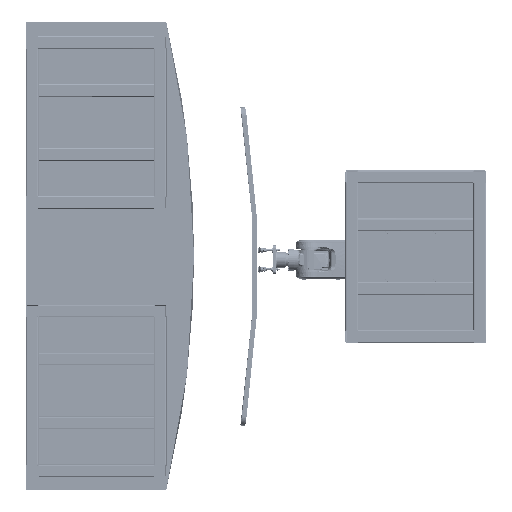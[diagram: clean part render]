
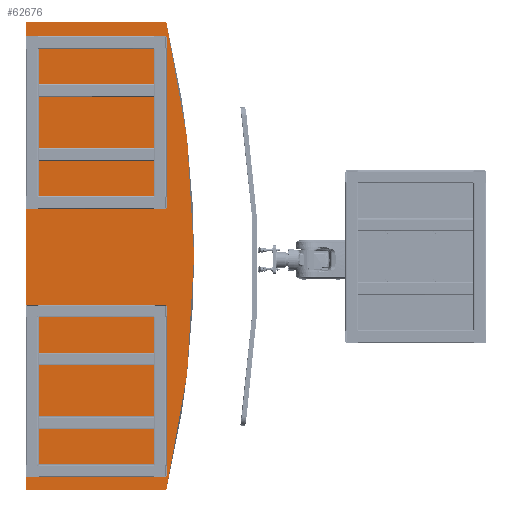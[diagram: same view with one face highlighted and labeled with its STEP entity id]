
A CAD part, front view. The second image highlights one B-rep face of the part: STEP entity #62676.
In plain terms, the highlighted planar face has unit normal (0, -1, 0).
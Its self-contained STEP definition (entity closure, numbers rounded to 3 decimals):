
#9040=LINE('',#193489,#13260);
#9041=LINE('',#193491,#13261);
#9042=LINE('',#193494,#13262);
#13260=VECTOR('',#84897,10.);
#13261=VECTOR('',#84898,10.);
#13262=VECTOR('',#84901,10.);
#17341=FACE_OUTER_BOUND('',#21039,.T.);
#21039=EDGE_LOOP('',(#56480,#56481,#56482,#56483));
#24033=CIRCLE('',#69503,3126.222);
#29521=VERTEX_POINT('',#193487);
#29522=VERTEX_POINT('',#193488);
#29523=VERTEX_POINT('',#193490);
#29524=VERTEX_POINT('',#193492);
#38582=EDGE_CURVE('',#29521,#29522,#9040,.T.);
#38583=EDGE_CURVE('',#29522,#29523,#9041,.T.);
#38584=EDGE_CURVE('',#29523,#29524,#24033,.T.);
#38585=EDGE_CURVE('',#29524,#29521,#9042,.T.);
#56480=ORIENTED_EDGE('',*,*,#38582,.T.);
#56481=ORIENTED_EDGE('',*,*,#38583,.T.);
#56482=ORIENTED_EDGE('',*,*,#38584,.T.);
#56483=ORIENTED_EDGE('',*,*,#38585,.T.);
#59265=PLANE('',#69502);
#62676=ADVANCED_FACE('',(#17341),#59265,.T.);
#69502=AXIS2_PLACEMENT_3D('',#193486,#84895,#84896);
#69503=AXIS2_PLACEMENT_3D('',#193493,#84899,#84900);
#84895=DIRECTION('center_axis',(0.,-1.,0.));
#84896=DIRECTION('ref_axis',(0.,0.,-1.));
#84897=DIRECTION('',(1.,0.,0.));
#84898=DIRECTION('',(0.,0.,1.));
#84899=DIRECTION('center_axis',(0.,-1.,0.));
#84900=DIRECTION('ref_axis',(0.234,0.,0.972));
#84901=DIRECTION('',(0.,0.,-1.));
#193486=CARTESIAN_POINT('Origin',(500.,-150.,-222.842));
#193487=CARTESIAN_POINT('',(-232.111,-150.,-485.926));
#193488=CARTESIAN_POINT('',(1232.111,-150.,-485.926));
#193489=CARTESIAN_POINT('',(-232.111,-150.,-485.926));
#193490=CARTESIAN_POINT('',(1232.111,-150.,-46.69));
#193491=CARTESIAN_POINT('',(1232.111,-150.,-485.926));
#193492=CARTESIAN_POINT('',(-232.111,-150.,-46.69));
#193493=CARTESIAN_POINT('Origin',(500.,-150.,-3085.978));
#193494=CARTESIAN_POINT('',(-232.111,-150.,-46.69));
